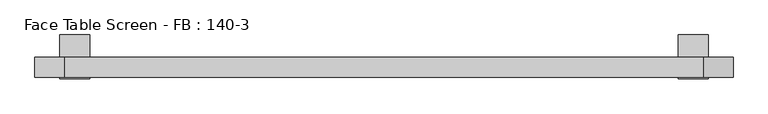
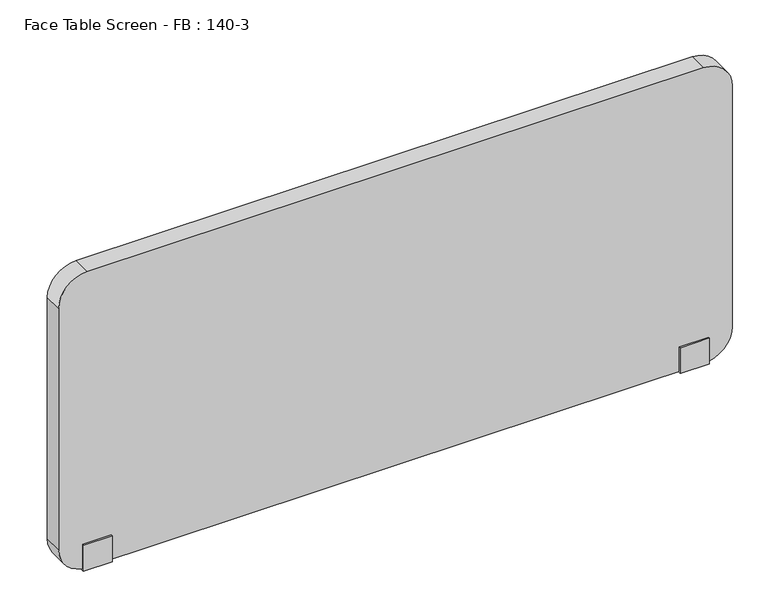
"""IFC4 building model written with IfcOpenShell, lengths in millimetres: furniture geometry, Face Table Screen - FB : 140-3."""

from ifc_helpers import new_model, si_unit, point, frame, frame_2d, origin, place, context, project, spatial, polyline, circle_curve, trimmed, segment, composite_curve, outline, extrude, source, transform, mapped, element, save


def face_table_screen_fb_140_3_0bd7de2f(model_context):
    return source(origin(), model_context, "Body", "SweptSolid", [
        extrude(outline(polyline([(-42.9999947, -256.0), (-42.9999997, -199.0433898), (-40.0, -199.0433898), (-40.0, -253.0), (0.0, -253.0), (0.0, -22.0), (45.0, -22.0), (45.0, -25.0433898), (3.0000062, -25.0433898), (2.9999947, -256.0), (-42.9999947, -256.0)])), frame((609.9863751, 0.0, 0.0), z_axis=(1.0, 0.0, 0.0), x_axis=(0.0, 1.0, 0.0)), (0.0, 0.0, 1.0), 60.0),
        extrude(outline(polyline([(-42.9999947, -256.0), (-42.9999997, -199.0433898), (-40.0, -199.0433898), (-40.0, -253.0), (0.0, -253.0), (0.0, -22.0), (45.0, -22.0), (45.0, -25.0433898), (3.0000062, -25.0433898), (2.9999947, -256.0), (-42.9999947, -256.0)])), frame((-630.0136249, 0.0, 0.0), z_axis=(1.0, 0.0, 0.0), x_axis=(0.0, 1.0, 0.0)), (0.0, 0.0, 1.0), 60.0),
        extrude(outline(composite_curve([segment(polyline([(397.0, 659.9863751), (397.0, -620.0136249)]), True, "CONTINUOUS"), segment(trimmed(circle_curve(frame_2d((337.0, -620.0136249)), 60.0), [point((397.0, -620.0136249))], [point((337.0, -680.0136249))], False, "CARTESIAN"), True, "CONTINUOUS"), segment(polyline([(337.0, -680.0136249), (-193.0, -680.0136249)]), True, "CONTINUOUS"), segment(trimmed(circle_curve(frame_2d((-193.0, -620.0136249)), 60.0), [point((-193.0, -680.0136249))], [point((-253.0, -620.0136249))], False, "CARTESIAN"), True, "CONTINUOUS"), segment(polyline([(-253.0, -620.0136249), (-253.0, 659.9863751)]), True, "CONTINUOUS"), segment(trimmed(circle_curve(frame_2d((-193.0, 659.9863751)), 60.0), [point((-253.0, 659.9863751))], [point((-193.0, 719.9863751))], False, "CARTESIAN"), True, "CONTINUOUS"), segment(polyline([(-193.0, 719.9863751), (337.0, 719.9863751)]), True, "CONTINUOUS"), segment(trimmed(circle_curve(frame_2d((337.0, 659.9863751)), 60.0), [point((337.0, 719.9863751))], [point((397.0, 659.9863751))], False, "CARTESIAN"), True, "CONTINUOUS")], self_intersect=False)), frame((0.0, -40.0, 0.0), z_axis=(0.0, 1.0, 0.0), x_axis=(0.0, 0.0, 1.0)), (0.0, 0.0, 1.0), 40.0),
    ])


if __name__ == "__main__":
    model = new_model("IFC4")
    model_context = context("Model", 3, world=origin())
    ifc_project = project(units=[si_unit("LENGTHUNIT", "METRE", prefix="MILLI")], contexts=[model_context])
    site = spatial("IfcSite", under=ifc_project)
    building = spatial("IfcBuilding", under=site)
    placement = place(None, origin())
    face_table_screen_fb_140_3_shape = face_table_screen_fb_140_3_0bd7de2f(model_context)
    element("IfcFurniture", 1, ObjectType="Face Table Screen - FB : 140-3", at=placement, inside=building, context=model_context, shape_type="MappedRepresentation", body=[
        mapped(face_table_screen_fb_140_3_shape, transform((0.0, 0.0, 0.0), x_axis=(1.0, 0.0, 0.0), y_axis=(0.0, 1.0, 0.0), z_axis=(0.0, 0.0, 1.0))),
    ])
    save(model, "model.ifc")
